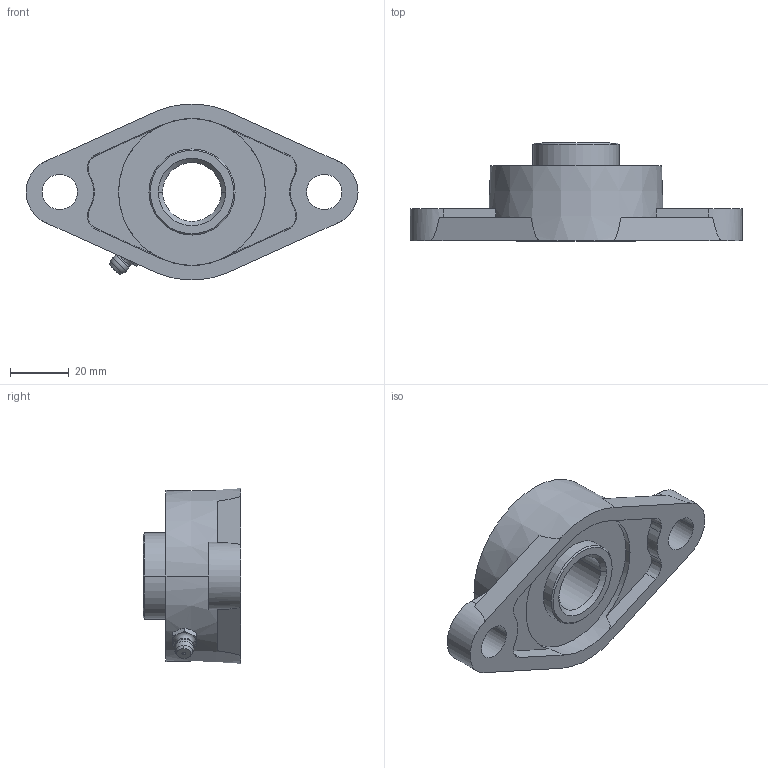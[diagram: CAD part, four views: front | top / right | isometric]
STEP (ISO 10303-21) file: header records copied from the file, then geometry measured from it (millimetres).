
FILE_DESCRIPTION (( 'STEP AP214' ), '1' );
FILE_NAME ('4.0009 Laakeri UCFL 204 JIB.STEP', '2025-09-24T07:13:13', ( '' ), ( '' ), 'SwSTEP 2.0', 'SolidWorks 2025', '' );
FILE_SCHEMA (( 'AUTOMOTIVE_DESIGN' ));
Length unit declared in the file: millimetre
Products named in the file (1): 4.0009 Laakeri UCFL 204 JIB
Bounding box: 113 x 33.3 x 59.78 mm (x, y, z)
Volume: 63946.1 mm3; surface area: 18921.4 mm2
Topology: 1 solids, 1 shells, 91 faces, 234 edges, 151 vertices
Faces by surface type: plane 36, cone 28, cylinder 20, torus 4, sphere 3
Entity records: 3362 total; most frequent: CARTESIAN_POINT 651, DIRECTION 480, ORIENTED_EDGE 458, EDGE_CURVE 229, AXIS2_PLACEMENT_3D 200, VERTEX_POINT 149, CIRCLE 108, EDGE_LOOP 106
